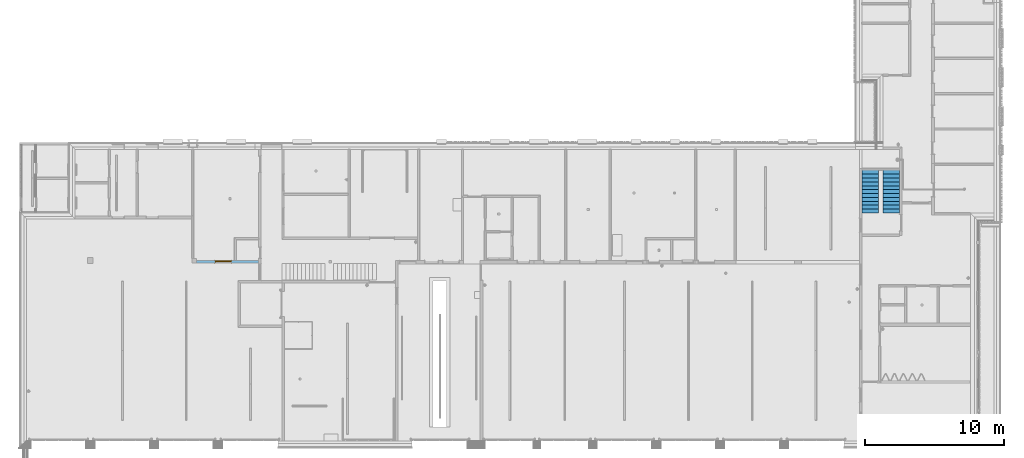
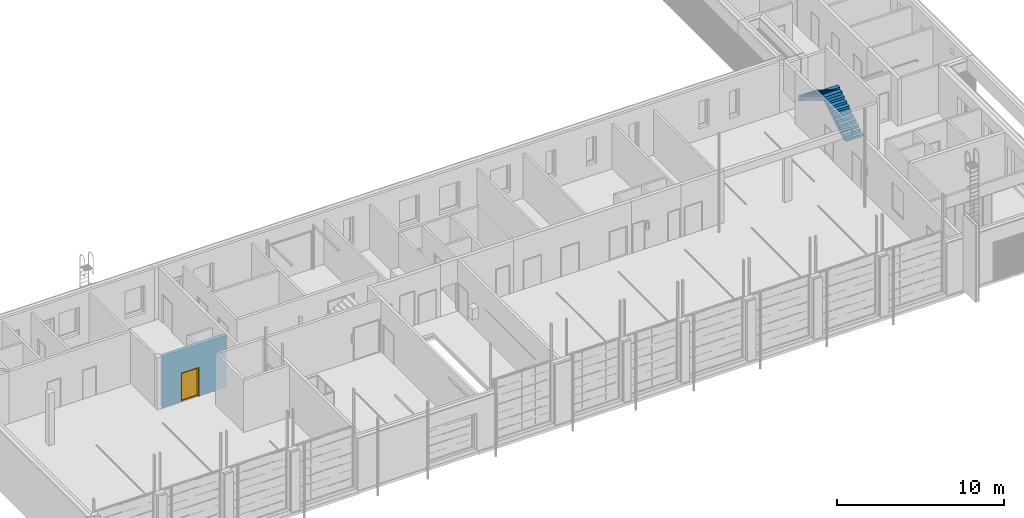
# One storey, part 37 of 112: 2 members, 1 door, 1 opening, 2 elements without a shape of their own, plus 1 element that does not belong to this part.
"""IFC2X3 building model written with IfcOpenShell, lengths in millimetres."""

from ifc_helpers import new_model, entity, si_unit, converted_unit, derived_unit, money_unit, direction, frame, origin_with_axes, origin_2d_with_axis, place, context, subcontext, project, spatial, polyline, rectangle, outline, extrude, faceted_brep, material, layer, layer_set, layer_usage, type_object, element, fill, aggregate, save


model = new_model("IFC2X3")

# Units and contexts
model_context = context("Model", 3, precision=0.01, world=origin_with_axes(), true_north=direction((0.0, 1.0)))
body_context = subcontext(model_context, "Body", "Model", "MODEL_VIEW")
ifc_project = project(units=[si_unit("LENGTHUNIT", "METRE", prefix="MILLI"), si_unit("AREAUNIT", "SQUARE_METRE"), si_unit("VOLUMEUNIT", "CUBIC_METRE"), converted_unit("PLANEANGLEUNIT", "DEGREE", entity("IfcPlaneAngleMeasure", 0.0174532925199), si_unit("PLANEANGLEUNIT", "RADIAN"), dimensions=[0, 0, 0, 0, 0, 0, 0]), si_unit("SOLIDANGLEUNIT", "STERADIAN"), money_unit("EUR"), converted_unit("TIMEUNIT", "Year", entity("IfcTimeMeasure", 31556926.0), si_unit("TIMEUNIT", "SECOND"), dimensions=[0, 0, 1, 0, 0, 0, 0]), si_unit("MASSUNIT", "GRAM", prefix="KILO"), si_unit("THERMODYNAMICTEMPERATUREUNIT", "DEGREE_CELSIUS"), si_unit("LUMINOUSINTENSITYUNIT", "LUMEN"), si_unit("ENERGYUNIT", "JOULE", prefix="MEGA"), derived_unit("THERMALCONDUCTANCEUNIT", [(si_unit("POWERUNIT", "WATT"), 1), (si_unit("LENGTHUNIT", "METRE"), -1), (si_unit("THERMODYNAMICTEMPERATUREUNIT", "KELVIN"), -1)]), derived_unit("SPECIFICHEATCAPACITYUNIT", [(si_unit("ENERGYUNIT", "JOULE"), 1), (si_unit("MASSUNIT", "GRAM", prefix="KILO"), -1), (si_unit("THERMODYNAMICTEMPERATUREUNIT", "KELVIN"), -1)]), derived_unit("MASSDENSITYUNIT", [(si_unit("MASSUNIT", "GRAM", prefix="KILO"), 1), (si_unit("VOLUMEUNIT", "CUBIC_METRE"), -1)])], contexts=[model_context])

# Site, building, storey
site_placement = place(None, origin_with_axes())
site = spatial("IfcSite", under=ifc_project, at=site_placement, Name="Politse- ja Piirivalveameti ning Päästeameti ühishoone", CompositionType="ELEMENT")
building_placement = place(site_placement, origin_with_axes())
building = spatial("IfcBuilding", under=site, at=building_placement, Name="Politse- ja Piirivalveameti ning Päästeameti ühishoone", CompositionType="ELEMENT")
storey_placement = place(building_placement, origin_with_axes())
storey = spatial("IfcBuildingStorey", under=building, at=storey_placement, Name="Esimene korrus", CompositionType="ELEMENT", Elevation=0.0)

# Stair, member
stair_1_placement = place(storey_placement, frame((62860.557259, 16419.9520832, 0.0), z_axis=(0.0, 0.0, 1.0), x_axis=(0.0, 1.0, 0.0)))
stair_1 = element("IfcStair", 1, at=stair_1_placement, inside=storey, Name="TREPP 1", ShapeType="NOTDEFINED")
ifc_material_1 = material(Name="KON-04_Betoon - Konstuktsioon")
member_type = type_object("IfcMemberType", Name="IfcMember", PredefinedType="USERDEFINED")
member_1_placement = place(stair_1_placement, origin_with_axes())
member_1 = element("IfcMember", 2, at=member_1_placement, type_object=member_type, material=ifc_material_1, Name="TT KONSTRUKTSIOON - 002", ObjectType="Stair Structure", context=body_context, shape_type="Brep", body=[
    faceted_brep([(3080.0, 0.0, 1900.0), (3080.0, 0.0, 1665.00682734), (3080.0, 1200.0, 1665.00682734), (3080.0, 1200.0, 1900.0), (2893.33333333, 0.0, 1549.85531219), (2986.66666667, 0.0, 1607.43106977), (2800.0, 0.0, 1900.0), (2800.0, 0.0, 1727.27272727), (2520.0, 0.0, 1727.27272727), (2520.0, 0.0, 1554.54545455), (2240.0, 0.0, 1554.54545455), (2240.0, 0.0, 1381.81818182), (1960.0, 0.0, 1381.81818182), (1960.0, 0.0, 1209.09090909), (1680.0, 0.0, 1209.09090909), (1680.0, 0.0, 1036.36363636), (1400.0, 0.0, 1036.36363636), (1400.0, 0.0, 863.636363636), (1120.0, 0.0, 863.636363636), (1120.0, 0.0, 690.909090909), (840.0, 0.0, 690.909090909), (840.0, 0.0, 518.181818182), (560.0, 0.0, 518.181818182), (560.0, 0.0, 345.454545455), (280.0, 0.0, 345.454545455), (280.0, 0.0, 172.727272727), (0.0, 0.0, 172.727272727), (0.0, 0.0, 0.0), (380.93630094, 0.0, 0.0), (466.666666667, 0.0, 52.8856152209), (560.0, 0.0, 110.461372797), (653.333333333, 0.0, 168.037130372), (746.666666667, 0.0, 225.612887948), (840.0, 0.0, 283.188645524), (933.333333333, 0.0, 340.7644031), (1026.66666667, 0.0, 398.340160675), (1120.0, 0.0, 455.915918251), (1213.33333333, 0.0, 513.491675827), (1306.66666667, 0.0, 571.067433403), (1400.0, 0.0, 628.643190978), (1493.33333333, 0.0, 686.218948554), (1586.66666667, 0.0, 743.79470613), (1680.0, 0.0, 801.370463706), (1773.33333333, 0.0, 858.946221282), (1866.66666667, 0.0, 916.521978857), (1960.0, 0.0, 974.097736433), (2053.33333333, 0.0, 1031.67349401), (2146.66666667, 0.0, 1089.24925158), (2240.0, 0.0, 1146.82500916), (2333.33333333, 0.0, 1204.40076674), (2426.66666667, 0.0, 1261.97652431), (2520.0, 0.0, 1319.55228189), (2613.33333333, 0.0, 1377.12803946), (2706.66666667, 0.0, 1434.70379704), (2800.0, 0.0, 1492.27955461), (2986.66666667, 1200.0, 1607.43106977), (380.93630094, 1200.0, 0.0), (0.0, 1200.0, 0.0), (0.0, 1200.0, 172.727272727), (280.0, 1200.0, 172.727272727), (280.0, 1200.0, 345.454545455), (560.0, 1200.0, 345.454545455), (560.0, 1200.0, 518.181818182), (840.0, 1200.0, 518.181818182), (840.0, 1200.0, 690.909090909), (1120.0, 1200.0, 690.909090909), (1120.0, 1200.0, 863.636363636), (1400.0, 1200.0, 863.636363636), (1400.0, 1200.0, 1036.36363636), (1680.0, 1200.0, 1036.36363636), (1680.0, 1200.0, 1209.09090909), (1960.0, 1200.0, 1209.09090909), (1960.0, 1200.0, 1381.81818182), (2240.0, 1200.0, 1381.81818182), (2240.0, 1200.0, 1554.54545455), (2520.0, 1200.0, 1554.54545455), (2520.0, 1200.0, 1727.27272727), (2800.0, 1200.0, 1727.27272727), (2800.0, 1200.0, 1900.0), (2893.33333333, 1200.0, 1549.85531219), (2800.0, 1200.0, 1492.27955461), (2706.66666667, 1200.0, 1434.70379704), (2613.33333333, 1200.0, 1377.12803946), (2520.0, 1200.0, 1319.55228189), (2426.66666667, 1200.0, 1261.97652431), (2333.33333333, 1200.0, 1204.40076674), (2240.0, 1200.0, 1146.82500916), (2146.66666667, 1200.0, 1089.24925158), (2053.33333333, 1200.0, 1031.67349401), (1960.0, 1200.0, 974.097736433), (1866.66666667, 1200.0, 916.521978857), (1773.33333333, 1200.0, 858.946221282), (1680.0, 1200.0, 801.370463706), (1586.66666667, 1200.0, 743.79470613), (1493.33333333, 1200.0, 686.218948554), (1400.0, 1200.0, 628.643190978), (1306.66666667, 1200.0, 571.067433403), (1213.33333333, 1200.0, 513.491675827), (1120.0, 1200.0, 455.915918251), (1026.66666667, 1200.0, 398.340160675), (933.333333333, 1200.0, 340.7644031), (840.0, 1200.0, 283.188645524), (746.666666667, 1200.0, 225.612887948), (653.333333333, 1200.0, 168.037130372), (560.0, 1200.0, 110.461372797), (466.666666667, 1200.0, 52.8856152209)], [[[0, 1, 2, 3]], [[4, 5, 1, 0, 6, 7, 8, 9, 10, 11, 12, 13, 14, 15, 16, 17, 18, 19, 20, 21, 22, 23, 24, 25, 26, 27, 28, 29, 30, 31, 32, 33, 34, 35, 36, 37, 38, 39, 40, 41, 42, 43, 44, 45, 46, 47, 48, 49, 50, 51, 52, 53, 54]], [[55, 2, 1, 5]], [[56, 57, 58, 59, 60, 61, 62, 63, 64, 65, 66, 67, 68, 69, 70, 71, 72, 73, 74, 75, 76, 77, 78, 3, 2, 55, 79, 80, 81, 82, 83, 84, 85, 86, 87, 88, 89, 90, 91, 92, 93, 94, 95, 96, 97, 98, 99, 100, 101, 102, 103, 104, 105]], [[6, 0, 3, 78]], [[4, 79, 55, 5]], [[6, 78, 77, 7]], [[76, 8, 7, 77]], [[8, 76, 75, 9]], [[74, 10, 9, 75]], [[10, 74, 73, 11]], [[72, 12, 11, 73]], [[12, 72, 71, 13]], [[70, 14, 13, 71]], [[14, 70, 69, 15]], [[68, 16, 15, 69]], [[16, 68, 67, 17]], [[66, 18, 17, 67]], [[18, 66, 65, 19]], [[64, 20, 19, 65]], [[20, 64, 63, 21]], [[62, 22, 21, 63]], [[22, 62, 61, 23]], [[60, 24, 23, 61]], [[24, 60, 59, 25]], [[58, 26, 25, 59]], [[57, 27, 26, 58]], [[27, 57, 56, 28]], [[28, 56, 105, 29]], [[29, 105, 104, 30]], [[30, 104, 103, 31]], [[31, 103, 102, 32]], [[32, 102, 101, 33]], [[33, 101, 100, 34]], [[34, 100, 99, 35]], [[35, 99, 98, 36]], [[36, 98, 97, 37]], [[37, 97, 96, 38]], [[38, 96, 95, 39]], [[39, 95, 94, 40]], [[40, 94, 93, 41]], [[41, 93, 92, 42]], [[42, 92, 91, 43]], [[43, 91, 90, 44]], [[44, 90, 89, 45]], [[45, 89, 88, 46]], [[46, 88, 87, 47]], [[47, 87, 86, 48]], [[48, 86, 85, 49]], [[49, 85, 84, 50]], [[50, 84, 83, 51]], [[51, 83, 82, 52]], [[52, 82, 81, 53]], [[53, 81, 80, 54]], [[54, 80, 79, 4]]]),
])
aggregate(stair_1, [member_1])

stair_2_placement = place(storey_placement, frame((60160.5519118, 19499.9520832, 1900.0), z_axis=(0.0, 0.0, 1.0), x_axis=(0.0, -1.0, 0.0)))
stair_2 = element("IfcStair", 3, at=stair_2_placement, inside=storey, Name="TREPP 1", ShapeType="NOTDEFINED")
member_2_placement = place(stair_2_placement, origin_with_axes())
member_2 = element("IfcMember", 4, at=member_2_placement, type_object=member_type, material=ifc_material_1, Name="TT KONSTRUKTSIOON - 002", ObjectType="Stair Structure", context=body_context, shape_type="Brep", body=[
    faceted_brep([(3080.0, 0.0, 1900.0), (3080.0, 0.0, 1665.00682734), (3080.0, 1200.0, 1665.00682734), (3080.0, 1200.0, 1900.0), (2893.33333333, 0.0, 1549.85531219), (2986.66666667, 0.0, 1607.43106977), (2800.0, 0.0, 1900.0), (2800.0, 0.0, 1727.27272727), (2520.0, 0.0, 1727.27272727), (2520.0, 0.0, 1554.54545455), (2240.0, 0.0, 1554.54545455), (2240.0, 0.0, 1381.81818182), (1960.0, 0.0, 1381.81818182), (1960.0, 0.0, 1209.09090909), (1680.0, 0.0, 1209.09090909), (1680.0, 0.0, 1036.36363636), (1400.0, 0.0, 1036.36363636), (1400.0, 0.0, 863.636363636), (1120.0, 0.0, 863.636363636), (1120.0, 0.0, 690.909090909), (840.0, 0.0, 690.909090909), (840.0, 0.0, 518.181818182), (560.0, 0.0, 518.181818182), (560.0, 0.0, 345.454545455), (280.0, 0.0, 345.454545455), (280.0, 0.0, 172.727272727), (0.0, 0.0, 172.727272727), (0.0, 0.0, -234.993172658), (93.3333333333, 0.0, -177.417415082), (186.666666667, 0.0, -119.841657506), (280.0, 0.0, -62.2658999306), (373.333333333, 0.0, -4.69014235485), (466.666666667, 0.0, 52.8856152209), (560.0, 0.0, 110.461372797), (653.333333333, 0.0, 168.037130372), (746.666666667, 0.0, 225.612887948), (840.0, 0.0, 283.188645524), (933.333333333, 0.0, 340.7644031), (1026.66666667, 0.0, 398.340160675), (1120.0, 0.0, 455.915918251), (1213.33333333, 0.0, 513.491675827), (1306.66666667, 0.0, 571.067433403), (1400.0, 0.0, 628.643190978), (1493.33333333, 0.0, 686.218948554), (1586.66666667, 0.0, 743.79470613), (1680.0, 0.0, 801.370463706), (1773.33333333, 0.0, 858.946221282), (1866.66666667, 0.0, 916.521978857), (1960.0, 0.0, 974.097736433), (2053.33333333, 0.0, 1031.67349401), (2146.66666667, 0.0, 1089.24925158), (2240.0, 0.0, 1146.82500916), (2333.33333333, 0.0, 1204.40076674), (2426.66666667, 0.0, 1261.97652431), (2520.0, 0.0, 1319.55228189), (2613.33333333, 0.0, 1377.12803946), (2706.66666667, 0.0, 1434.70379704), (2800.0, 0.0, 1492.27955461), (2986.66666667, 1200.0, 1607.43106977), (186.666666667, 1200.0, -119.841657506), (93.3333333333, 1200.0, -177.417415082), (0.0, 1200.0, -234.993172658), (0.0, 1200.0, 172.727272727), (280.0, 1200.0, 172.727272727), (280.0, 1200.0, 345.454545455), (560.0, 1200.0, 345.454545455), (560.0, 1200.0, 518.181818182), (840.0, 1200.0, 518.181818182), (840.0, 1200.0, 690.909090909), (1120.0, 1200.0, 690.909090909), (1120.0, 1200.0, 863.636363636), (1400.0, 1200.0, 863.636363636), (1400.0, 1200.0, 1036.36363636), (1680.0, 1200.0, 1036.36363636), (1680.0, 1200.0, 1209.09090909), (1960.0, 1200.0, 1209.09090909), (1960.0, 1200.0, 1381.81818182), (2240.0, 1200.0, 1381.81818182), (2240.0, 1200.0, 1554.54545455), (2520.0, 1200.0, 1554.54545455), (2520.0, 1200.0, 1727.27272727), (2800.0, 1200.0, 1727.27272727), (2800.0, 1200.0, 1900.0), (2893.33333333, 1200.0, 1549.85531219), (2800.0, 1200.0, 1492.27955461), (2706.66666667, 1200.0, 1434.70379704), (2613.33333333, 1200.0, 1377.12803946), (2520.0, 1200.0, 1319.55228189), (2426.66666667, 1200.0, 1261.97652431), (2333.33333333, 1200.0, 1204.40076674), (2240.0, 1200.0, 1146.82500916), (2146.66666667, 1200.0, 1089.24925158), (2053.33333333, 1200.0, 1031.67349401), (1960.0, 1200.0, 974.097736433), (1866.66666667, 1200.0, 916.521978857), (1773.33333333, 1200.0, 858.946221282), (1680.0, 1200.0, 801.370463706), (1586.66666667, 1200.0, 743.79470613), (1493.33333333, 1200.0, 686.218948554), (1400.0, 1200.0, 628.643190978), (1306.66666667, 1200.0, 571.067433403), (1213.33333333, 1200.0, 513.491675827), (1120.0, 1200.0, 455.915918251), (1026.66666667, 1200.0, 398.340160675), (933.333333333, 1200.0, 340.7644031), (840.0, 1200.0, 283.188645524), (746.666666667, 1200.0, 225.612887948), (653.333333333, 1200.0, 168.037130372), (560.0, 1200.0, 110.461372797), (466.666666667, 1200.0, 52.8856152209), (373.333333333, 1200.0, -4.69014235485), (280.0, 1200.0, -62.2658999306)], [[[0, 1, 2, 3]], [[4, 5, 1, 0, 6, 7, 8, 9, 10, 11, 12, 13, 14, 15, 16, 17, 18, 19, 20, 21, 22, 23, 24, 25, 26, 27, 28, 29, 30, 31, 32, 33, 34, 35, 36, 37, 38, 39, 40, 41, 42, 43, 44, 45, 46, 47, 48, 49, 50, 51, 52, 53, 54, 55, 56, 57]], [[58, 2, 1, 5]], [[59, 60, 61, 62, 63, 64, 65, 66, 67, 68, 69, 70, 71, 72, 73, 74, 75, 76, 77, 78, 79, 80, 81, 82, 3, 2, 58, 83, 84, 85, 86, 87, 88, 89, 90, 91, 92, 93, 94, 95, 96, 97, 98, 99, 100, 101, 102, 103, 104, 105, 106, 107, 108, 109, 110, 111]], [[6, 0, 3, 82]], [[4, 83, 58, 5]], [[6, 82, 81, 7]], [[80, 8, 7, 81]], [[8, 80, 79, 9]], [[78, 10, 9, 79]], [[10, 78, 77, 11]], [[76, 12, 11, 77]], [[12, 76, 75, 13]], [[74, 14, 13, 75]], [[14, 74, 73, 15]], [[72, 16, 15, 73]], [[16, 72, 71, 17]], [[70, 18, 17, 71]], [[18, 70, 69, 19]], [[68, 20, 19, 69]], [[20, 68, 67, 21]], [[66, 22, 21, 67]], [[22, 66, 65, 23]], [[64, 24, 23, 65]], [[24, 64, 63, 25]], [[62, 26, 25, 63]], [[62, 61, 27, 26]], [[27, 61, 60, 28]], [[28, 60, 59, 29]], [[29, 59, 111, 30]], [[30, 111, 110, 31]], [[31, 110, 109, 32]], [[32, 109, 108, 33]], [[33, 108, 107, 34]], [[34, 107, 106, 35]], [[35, 106, 105, 36]], [[36, 105, 104, 37]], [[37, 104, 103, 38]], [[38, 103, 102, 39]], [[39, 102, 101, 40]], [[40, 101, 100, 41]], [[41, 100, 99, 42]], [[42, 99, 98, 43]], [[43, 98, 97, 44]], [[44, 97, 96, 45]], [[45, 96, 95, 46]], [[46, 95, 94, 47]], [[47, 94, 93, 48]], [[48, 93, 92, 49]], [[49, 92, 91, 50]], [[50, 91, 90, 51]], [[51, 90, 89, 52]], [[52, 89, 88, 53]], [[53, 88, 87, 54]], [[54, 87, 86, 55]], [[55, 86, 85, 56]], [[56, 85, 84, 57]], [[57, 84, 83, 4]]]),
])
aggregate(stair_2, [member_2])

# Wall, opening, door
ifc_material_2 = material(Name="KON-05_Betoon Plokk - Konstuktsioon")
ifc_layer = layer(ifc_material_2, 190.0, ventilated="UNKNOWN")
ifc_layer_set = layer_set([ifc_layer], Name="SS-03_Sisesein 190")
ifc_layer_usage = layer_usage(ifc_layer_set, "AXIS2", "POSITIVE", -190.0)
wall_type = type_object("IfcWallType", Name="SS-03_Sisesein 190 190", PredefinedType="NOTDEFINED")
wall_placement = place(storey_placement, frame((12250.1960484, 13000.0198611, 0.0), z_axis=(0.0, 0.0, 1.0), x_axis=(1.0, 0.0, 0.0)))
wall = element("IfcWallStandardCase", 5, at=wall_placement, inside=storey, type_object=wall_type, material=ifc_layer_usage, Name="SS-03", context=body_context, shape_type="SweptSolid", body=[
    extrude(outline(polyline([(0.0, -190.0), (4459.88977117, -190.0), (4454.88977117, 0.0), (-5.0, 0.0), (0.0, -190.0)])), origin_with_axes(), (0.0, 0.0, 1.0), 3800.0),
])
opening_placement = place(wall_placement, frame((1919.40604494, 0.0, 0.0), z_axis=(0.0, 0.0, 1.0), x_axis=(1.0, 0.0, 0.0)))
opening = element("IfcOpeningElement", 6, at=opening_placement, cuts=wall, Name="TU-01-2", context=body_context, shape_type="SweptSolid", body=[
    extrude(rectangle(XDim=1200.0, YDim=2100.0, at=origin_2d_with_axis()), frame((0.0, -190.0, 1050.0), z_axis=(0.0, -1.0, 0.0), x_axis=(-1.0, 0.0, 0.0)), (0.0, 0.0, -1.0), 570.0),
    extrude(rectangle(XDim=1274.0, YDim=2137.0, at=origin_2d_with_axis()), frame((0.0, -190.0, 1068.5), z_axis=(0.0, -1.0, 0.0), x_axis=(-1.0, 0.0, 0.0)), (0.0, 0.0, 1.0), 190.0),
    extrude(rectangle(XDim=1274.0, YDim=2137.0, at=origin_2d_with_axis()), frame((0.0, 0.0, 1068.5), z_axis=(0.0, 1.0, 0.0), x_axis=(-1.0, 0.0, 0.0)), (0.0, 0.0, 1.0), 190.0),
])
door_style = type_object("IfcDoorStyle", Name="Double Door Asymmetric 23", ConstructionType="NOTDEFINED", OperationType="DOUBLE_DOOR_SINGLE_SWING", ParameterTakesPrecedence=False, Sizeable=False)
door_placement = place(opening_placement, frame((-600.0, 0.0, 0.0), z_axis=(0.0, 0.0, 1.0), x_axis=(1.0, 0.0, 0.0)))
door = element("IfcDoor", 7, at=door_placement, inside=storey, type_object=door_style, Name="TU-01-2", ObjectType="DOOR", OverallHeight=2100.0, OverallWidth=1200.0, context=body_context, shape_type="Brep", body=[
    faceted_brep([(28.0, -40.0, 0.0), (40.0, -40.0, 0.0), (40.0, -40.0, 12.0), (28.0, -40.0, 12.0), (1172.0, -40.0, 0.0), (1160.0, -40.0, 0.0), (1160.0, -115.0, 0.0), (40.0, -115.0, 0.0), (40.0, -115.0, 12.0), (1160.0, -115.0, 12.0), (1160.0, -40.0, 12.0), (1172.0, -40.0, 12.0)], [[[0, 1, 2, 3]], [[0, 4, 5, 6, 7, 1]], [[1, 7, 8, 2]], [[3, 2, 8, 9, 10, 11]], [[4, 0, 3, 11]], [[5, 4, 11, 10]], [[6, 5, 10, 9]], [[7, 6, 9, 8]]]),
    faceted_brep([(1200.0, -115.0, 0.0), (1200.0, -190.0, 0.0), (1175.0, -190.0, 0.0), (1175.0, -115.0, 0.0), (1200.0, -115.0, 2100.0), (1200.0, -190.0, 2100.0), (1175.0, -190.0, 2075.0), (1175.0, -115.0, 2075.0)], [[[0, 1, 2, 3]], [[4, 5, 1, 0]], [[1, 5, 6, 2]], [[3, 2, 6, 7]], [[0, 3, 7, 4]], [[7, 6, 5, 4]]]),
    faceted_brep([(0.0, -115.0, 2100.0), (0.0, -190.0, 2100.0), (25.0, -190.0, 2075.0), (25.0, -115.0, 2075.0), (0.0, -115.0, 0.0), (0.0, -190.0, 0.0), (25.0, -190.0, 0.0), (25.0, -115.0, 0.0)], [[[0, 1, 2, 3]], [[4, 5, 1, 0]], [[1, 5, 6, 2]], [[3, 2, 6, 7]], [[0, 3, 7, 4]], [[7, 6, 5, 4]]]),
    faceted_brep([(1175.0, -115.0, 2075.0), (1175.0, -190.0, 2075.0), (25.0, -190.0, 2075.0), (25.0, -115.0, 2075.0), (1200.0, -115.0, 2100.0), (1200.0, -190.0, 2100.0), (0.0, -190.0, 2100.0), (0.0, -115.0, 2100.0)], [[[0, 1, 2, 3]], [[4, 5, 1, 0]], [[1, 5, 6, 2]], [[3, 2, 6, 7]], [[0, 3, 7, 4]], [[7, 6, 5, 4]]]),
    faceted_brep([(1237.0, -209.0, 0.0), (1187.0, -209.0, 0.0), (1187.0, -190.0, 0.0), (1237.0, -190.0, 0.0), (1237.0, -209.0, 2137.0), (1187.0, -209.0, 2087.0), (1187.0, -190.0, 2087.0), (1237.0, -190.0, 2137.0)], [[[0, 1, 2, 3]], [[0, 4, 5, 1]], [[1, 5, 6, 2]], [[3, 2, 6, 7]], [[4, 0, 3, 7]], [[5, 4, 7, 6]]]),
    faceted_brep([(-37.0, -209.0, 2137.0), (13.0, -209.0, 2087.0), (13.0, -190.0, 2087.0), (-37.0, -190.0, 2137.0), (-37.0, -209.0, 0.0), (13.0, -209.0, 0.0), (13.0, -190.0, 0.0), (-37.0, -190.0, 0.0)], [[[0, 1, 2, 3]], [[0, 4, 5, 1]], [[1, 5, 6, 2]], [[3, 2, 6, 7]], [[4, 0, 3, 7]], [[5, 4, 7, 6]]]),
    faceted_brep([(1237.0, -209.0, 2137.0), (1187.0, -209.0, 2087.0), (1187.0, -190.0, 2087.0), (1237.0, -190.0, 2137.0), (-37.0, -209.0, 2137.0), (13.0, -209.0, 2087.0), (13.0, -190.0, 2087.0), (-37.0, -190.0, 2137.0)], [[[0, 1, 2, 3]], [[0, 4, 5, 1]], [[1, 5, 6, 2]], [[3, 2, 6, 7]], [[4, 0, 3, 7]], [[5, 4, 7, 6]]]),
    faceted_brep([(1237.0, 19.0, 0.0), (1237.0, 0.0, 0.0), (1187.0, 0.0, 0.0), (1187.0, 19.0, 0.0), (1237.0, 19.0, 2137.0), (1237.0, 0.0, 2137.0), (1187.0, 0.0, 2087.0), (1187.0, 19.0, 2087.0)], [[[0, 1, 2, 3]], [[4, 5, 1, 0]], [[1, 5, 6, 2]], [[3, 2, 6, 7]], [[0, 3, 7, 4]], [[7, 6, 5, 4]]]),
    faceted_brep([(-37.0, 19.0, 2137.0), (-37.0, 0.0, 2137.0), (13.0, 0.0, 2087.0), (13.0, 19.0, 2087.0), (-37.0, 19.0, 0.0), (-37.0, 0.0, 0.0), (13.0, 0.0, 0.0), (13.0, 19.0, 0.0)], [[[0, 1, 2, 3]], [[4, 5, 1, 0]], [[1, 5, 6, 2]], [[3, 2, 6, 7]], [[0, 3, 7, 4]], [[7, 6, 5, 4]]]),
    faceted_brep([(1237.0, 19.0, 2137.0), (1237.0, 0.0, 2137.0), (1187.0, 0.0, 2087.0), (1187.0, 19.0, 2087.0), (-37.0, 19.0, 2137.0), (-37.0, 0.0, 2137.0), (13.0, 0.0, 2087.0), (13.0, 19.0, 2087.0)], [[[0, 1, 2, 3]], [[4, 5, 1, 0]], [[1, 5, 6, 2]], [[3, 2, 6, 7]], [[0, 3, 7, 4]], [[7, 6, 5, 4]]]),
    faceted_brep([(1160.0, -40.0, 0.0), (1160.0, -115.0, 0.0), (1160.0, -115.0, 2060.0), (1160.0, -40.0, 2060.0), (1172.0, -40.0, 0.0), (1172.0, 0.0, 0.0), (1200.0, 0.0, 0.0), (1200.0, -115.0, 0.0), (1200.0, -115.0, 2060.0), (1172.0, -40.0, 2060.0), (1200.0, 0.0, 2060.0), (1172.0, 0.0, 2060.0)], [[[0, 1, 2, 3]], [[4, 5, 6, 7, 1, 0]], [[1, 7, 8, 2]], [[9, 3, 2, 8, 10, 11]], [[9, 4, 0, 3]], [[11, 5, 4, 9]], [[11, 10, 6, 5]], [[6, 10, 8, 7]]]),
    faceted_brep([(28.0, -40.0, 2060.0), (28.0, 0.0, 2060.0), (0.0, 0.0, 2060.0), (0.0, -115.0, 2060.0), (40.0, -115.0, 2060.0), (40.0, -40.0, 2060.0), (28.0, -40.0, 0.0), (28.0, 0.0, 0.0), (0.0, 0.0, 0.0), (0.0, -115.0, 0.0), (40.0, -115.0, 0.0), (40.0, -40.0, 0.0)], [[[0, 1, 2, 3, 4, 5]], [[0, 6, 7, 1]], [[7, 8, 2, 1]], [[2, 8, 9, 3]], [[3, 9, 10, 4]], [[5, 4, 10, 11]], [[5, 11, 6, 0]], [[6, 11, 10, 9, 8, 7]]]),
    faceted_brep([(1172.0, 0.0, 2072.0), (28.0, 0.0, 2072.0), (28.0, 0.0, 2060.0), (0.0, 0.0, 2060.0), (0.0, 0.0, 2100.0), (1200.0, 0.0, 2100.0), (1200.0, 0.0, 2060.0), (1172.0, 0.0, 2060.0), (1172.0, -40.0, 2072.0), (28.0, -40.0, 2072.0), (28.0, -40.0, 2060.0), (40.0, -40.0, 2060.0), (40.0, -115.0, 2060.0), (0.0, -115.0, 2060.0), (0.0, -115.0, 2100.0), (1200.0, -115.0, 2100.0), (1200.0, -115.0, 2060.0), (1172.0, -40.0, 2060.0), (1160.0, -115.0, 2060.0), (1160.0, -40.0, 2060.0)], [[[0, 1, 2, 3, 4, 5, 6, 7]], [[0, 8, 9, 1]], [[1, 9, 10, 2]], [[10, 11, 12, 13, 3, 2]], [[4, 3, 13, 14]], [[5, 4, 14, 15]], [[6, 5, 15, 16]], [[17, 7, 6, 16, 18, 19]], [[7, 17, 8, 0]], [[10, 9, 8, 17, 19, 11]], [[19, 18, 12, 11]], [[12, 18, 16, 15, 14, 13]]]),
    faceted_brep([(28.0, 0.0, 0.0), (328.0, 0.0, 0.0), (328.0, -40.0, 0.0), (28.0, -40.0, 0.0), (28.0, 0.0, 2072.0), (328.0, 0.0, 2072.0), (328.0, -40.0, 2072.0), (28.0, -40.0, 2072.0)], [[[0, 1, 2, 3]], [[0, 4, 5, 1]], [[1, 5, 6, 2]], [[3, 2, 6, 7]], [[4, 0, 3, 7]], [[5, 4, 7, 6]]]),
    faceted_brep([(1172.0, 0.0, 0.0), (1172.0, -40.0, 0.0), (328.0, -40.0, 0.0), (328.0, 0.0, 0.0), (1172.0, 0.0, 2072.0), (1172.0, -40.0, 2072.0), (328.0, -40.0, 2072.0), (328.0, 0.0, 2072.0)], [[[0, 1, 2, 3]], [[4, 5, 1, 0]], [[1, 5, 6, 2]], [[3, 2, 6, 7]], [[0, 3, 7, 4]], [[7, 6, 5, 4]]]),
])
fill(opening, door)

save(model, "model.ifc")
